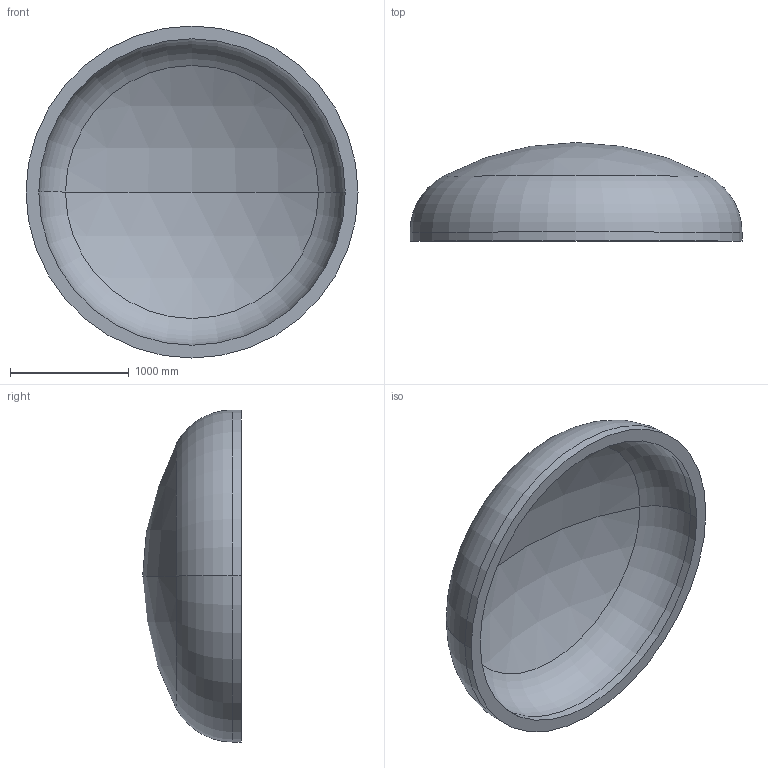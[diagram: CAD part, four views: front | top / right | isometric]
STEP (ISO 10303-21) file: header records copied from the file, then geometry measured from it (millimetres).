
FILE_DESCRIPTION (( 'STEP AP203' ), '1' );
FILE_NAME ('DIN 28013 Korbbogenform_-_Boden DIN 28013 - 2800 x 75 - I - s=108.step', '2016-07-01T17:20:15', ( '' ), ( '' ), 'SwSTEP 2.0', 'SolidWorks 2013', '' );
FILE_SCHEMA (( 'CONFIG_CONTROL_DESIGN' ));
Length unit declared in the file: millimetre
Products named in the file (1): DIN 28013 Korbbogenform_-_Boden DIN 28013 - 2800 x 75 - I - s=108
Bounding box: 2800 x 831.44 x 2800 mm (x, y, z)
Volume: 944091112 mm3; surface area: 18420966.3 mm2
Topology: 1 solids, 1 shells, 13 faces, 24 edges, 14 vertices
Faces by surface type: torus 4, cylinder 4, sphere 4, plane 1
Entity records: 407 total; most frequent: DIRECTION 72, CARTESIAN_POINT 52, ORIENTED_EDGE 48, AXIS2_PLACEMENT_3D 34, EDGE_CURVE 24, CIRCLE 20, EDGE_LOOP 14, VERTEX_POINT 14
